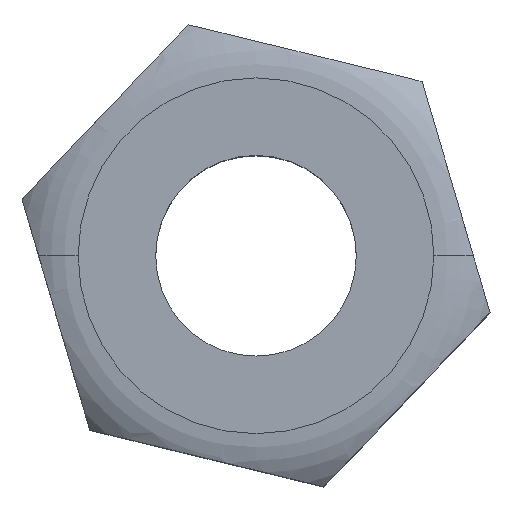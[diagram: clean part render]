
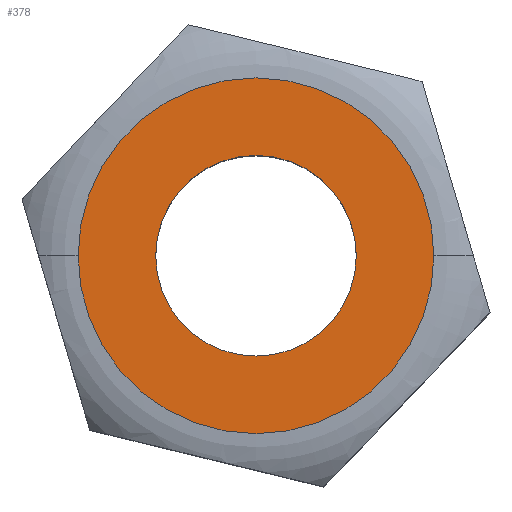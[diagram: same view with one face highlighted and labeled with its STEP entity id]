
A CAD part, top view. The second image highlights one B-rep face of the part: STEP entity #378.
In plain terms, the highlighted planar face has unit normal (0, 0, 1).
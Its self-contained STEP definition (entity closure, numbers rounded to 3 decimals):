
#7 = DIRECTION ( 'NONE',  ( 0., 0., 1. ) ) ;
#10 = FACE_BOUND ( 'NONE', #438, .T. ) ;
#11 = CARTESIAN_POINT ( 'NONE',  ( 9.586, 0., 25. ) ) ;
#22 = DIRECTION ( 'NONE',  ( -1., 0., 0. ) ) ;
#26 = CIRCLE ( 'NONE', #606, 17. ) ;
#38 = EDGE_CURVE ( 'NONE', #94, #577, #112, .T. ) ;
#64 = CIRCLE ( 'NONE', #465, 9.586 ) ;
#66 = PLANE ( 'NONE',  #114 ) ;
#85 = CARTESIAN_POINT ( 'NONE',  ( -9.586, 0., 25. ) ) ;
#94 = VERTEX_POINT ( 'NONE', #11 ) ;
#106 = ORIENTED_EDGE ( 'NONE', *, *, #235, .T. ) ;
#111 = DIRECTION ( 'NONE',  ( -1., 0., 0. ) ) ;
#112 = CIRCLE ( 'NONE', #580, 9.586 ) ;
#114 = AXIS2_PLACEMENT_3D ( 'NONE', #456, #7, #404 ) ;
#152 = DIRECTION ( 'NONE',  ( 0., 0., 1. ) ) ;
#158 = ORIENTED_EDGE ( 'NONE', *, *, #38, .T. ) ;
#166 = CARTESIAN_POINT ( 'NONE',  ( 17., 0., 25. ) ) ;
#225 = DIRECTION ( 'NONE',  ( 0., 0., -1. ) ) ;
#235 = EDGE_CURVE ( 'NONE', #646, #591, #240, .T. ) ;
#240 = CIRCLE ( 'NONE', #684, 17. ) ;
#262 = CARTESIAN_POINT ( 'NONE',  ( 0., 0., 25. ) ) ;
#264 = CARTESIAN_POINT ( 'NONE',  ( -17., 0., 25. ) ) ;
#275 = CARTESIAN_POINT ( 'NONE',  ( 0., 0., 25. ) ) ;
#325 = CARTESIAN_POINT ( 'NONE',  ( 0., 0., 25. ) ) ;
#326 = EDGE_LOOP ( 'NONE', ( #106, #448 ) ) ;
#378 = ADVANCED_FACE ( 'NONE', ( #10, #512 ), #66, .T. ) ;
#404 = DIRECTION ( 'NONE',  ( 1., 0., 0. ) ) ;
#438 = EDGE_LOOP ( 'NONE', ( #158, #550 ) ) ;
#448 = ORIENTED_EDGE ( 'NONE', *, *, #495, .T. ) ;
#456 = CARTESIAN_POINT ( 'NONE',  ( 0., 0., 25. ) ) ;
#465 = AXIS2_PLACEMENT_3D ( 'NONE', #592, #225, #111 ) ;
#495 = EDGE_CURVE ( 'NONE', #591, #646, #26, .T. ) ;
#512 = FACE_OUTER_BOUND ( 'NONE', #326, .T. ) ;
#513 = DIRECTION ( 'NONE',  ( 0., 0., -1. ) ) ;
#550 = ORIENTED_EDGE ( 'NONE', *, *, #596, .T. ) ;
#552 = DIRECTION ( 'NONE',  ( 0., 0., 1. ) ) ;
#577 = VERTEX_POINT ( 'NONE', #85 ) ;
#580 = AXIS2_PLACEMENT_3D ( 'NONE', #275, #513, #22 ) ;
#591 = VERTEX_POINT ( 'NONE', #264 ) ;
#592 = CARTESIAN_POINT ( 'NONE',  ( 0., 0., 25. ) ) ;
#596 = EDGE_CURVE ( 'NONE', #577, #94, #64, .T. ) ;
#606 = AXIS2_PLACEMENT_3D ( 'NONE', #262, #152, #702 ) ;
#646 = VERTEX_POINT ( 'NONE', #166 ) ;
#648 = DIRECTION ( 'NONE',  ( 1., 0., 0. ) ) ;
#684 = AXIS2_PLACEMENT_3D ( 'NONE', #325, #552, #648 ) ;
#702 = DIRECTION ( 'NONE',  ( 1., 0., 0. ) ) ;
